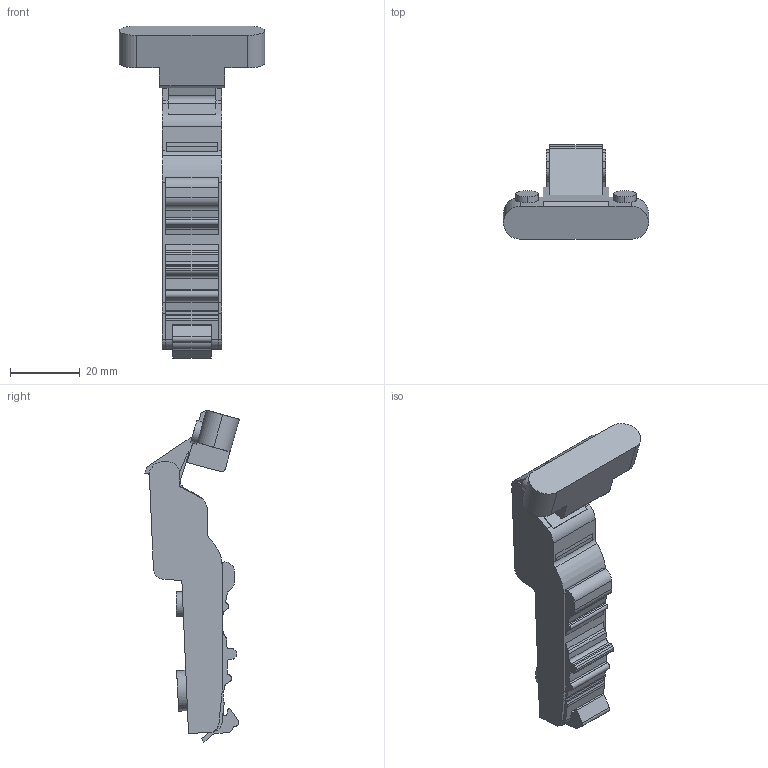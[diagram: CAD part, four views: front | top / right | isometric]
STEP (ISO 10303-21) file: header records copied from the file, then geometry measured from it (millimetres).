
FILE_DESCRIPTION (( 'STEP AP203' ), '1' );
FILE_NAME ('C82B678FA-DTC 3D open.STEP', '2024-09-06T05:14:33', ( '微软用户' ), ( '微软中国' ), 'SwSTEP 2.0', 'SolidWorks 2021', '' );
FILE_SCHEMA (( 'CONFIG_CONTROL_DESIGN' ));
Length unit declared in the file: millimetre
Products named in the file (1): C82B678FA-DTC 3D open
Bounding box: 41.6 x 27.11 x 95.13 mm (x, y, z)
Volume: 24202.6 mm3; surface area: 8121.9 mm2
Topology: 1 solids, 1 shells, 158 faces, 452 edges, 299 vertices
Faces by surface type: plane 87, cylinder 69, torus 1, bspline 1
Entity records: 5490 total; most frequent: CARTESIAN_POINT 1162, DIRECTION 908, ORIENTED_EDGE 904, EDGE_CURVE 452, AXIS2_PLACEMENT_3D 309, VERTEX_POINT 299, LINE 290, VECTOR 290
